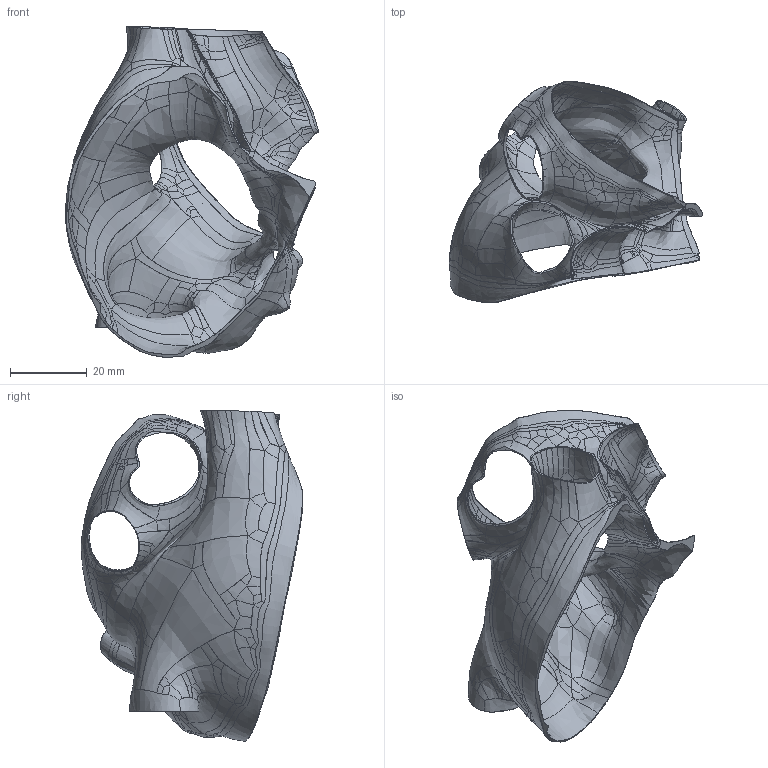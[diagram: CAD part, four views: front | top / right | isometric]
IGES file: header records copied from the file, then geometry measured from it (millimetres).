
Global section: file name: C:\FDA Main\FDA-Septal-Models\8909651\Thin area fixes\8909651.phase.40.igs; native system: Rhinoceros ( Mar  9 2011 ); preprocessor: Trout Lake IGES 012 Mar  9 2011; date: 120615.193138; units: millimetre
Bounding box: 66.08 x 57.92 x 86.34 mm (x, y, z)
Surface area: 22580.5 mm2 (no closed solid volume)
Topology: 0 solids, 0 shells, 1124 faces, 4492 edges, 4488 vertices
Faces by surface type: bspline 1124
